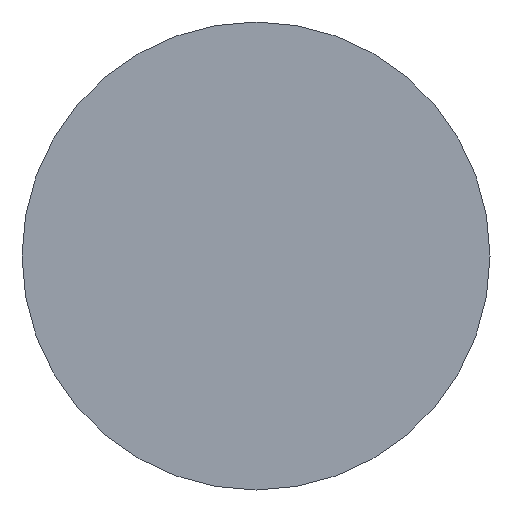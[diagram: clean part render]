
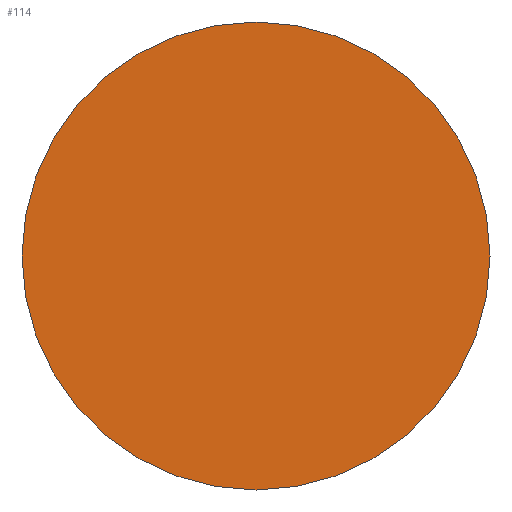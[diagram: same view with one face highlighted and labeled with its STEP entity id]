
A CAD part, front view. The second image highlights one B-rep face of the part: STEP entity #114.
In plain terms, the highlighted planar face has unit normal (0, -1, 0).
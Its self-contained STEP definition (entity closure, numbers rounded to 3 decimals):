
#82 = EDGE_CURVE( '', #164, #180, #206, .T. );
#98 = EDGE_CURVE( '', #180, #164, #224, .T. );
#114 = ADVANCED_FACE( '', ( #242 ), #243, .T. );
#164 = VERTEX_POINT( '', #298 );
#180 = VERTEX_POINT( '', #317 );
#206 = CIRCLE( '', #340, 7. );
#224 = CIRCLE( '', #363, 7. );
#242 = FACE_OUTER_BOUND( '', #385, .T. );
#243 = PLANE( '', #386 );
#298 = CARTESIAN_POINT( '', ( 0., -25., -7. ) );
#317 = CARTESIAN_POINT( '', ( 0., -25., 7. ) );
#340 = AXIS2_PLACEMENT_3D( '', #491, #492, #493 );
#363 = AXIS2_PLACEMENT_3D( '', #515, #516, #517 );
#385 = EDGE_LOOP( '', ( #542, #543 ) );
#386 = AXIS2_PLACEMENT_3D( '', #544, #545, #546 );
#491 = CARTESIAN_POINT( '', ( 0., -25., 0. ) );
#492 = DIRECTION( '', ( 0., -1., 0. ) );
#493 = DIRECTION( '', ( 0., 0., 1. ) );
#515 = CARTESIAN_POINT( '', ( 0., -25., 0. ) );
#516 = DIRECTION( '', ( 0., -1., 0. ) );
#517 = DIRECTION( '', ( 0., 0., 1. ) );
#542 = ORIENTED_EDGE( '', *, *, #98, .T. );
#543 = ORIENTED_EDGE( '', *, *, #82, .T. );
#544 = CARTESIAN_POINT( '', ( 0., -25., 3.5 ) );
#545 = DIRECTION( '', ( 0., -1., 0. ) );
#546 = DIRECTION( '', ( 0., 0., 1. ) );
